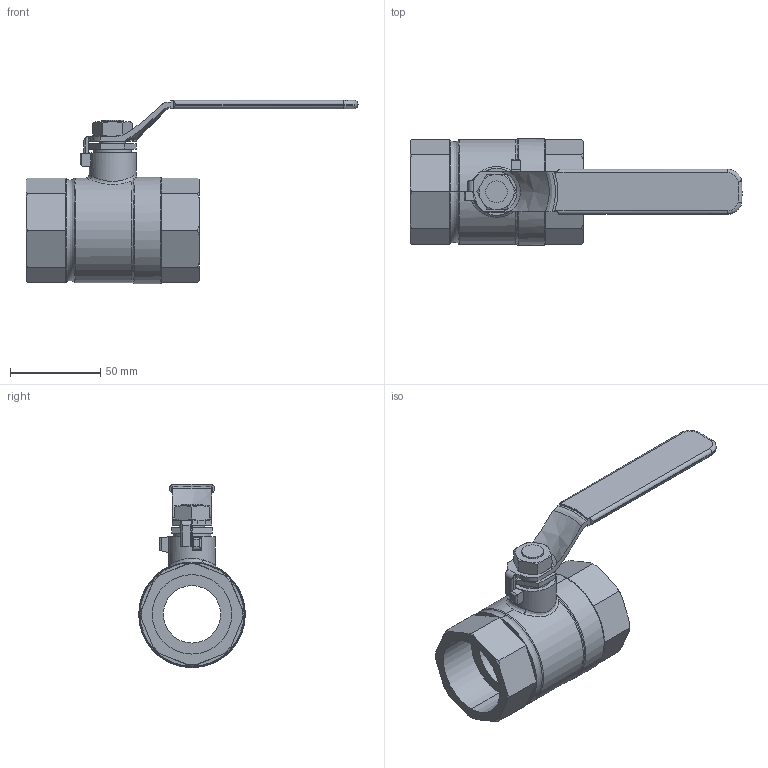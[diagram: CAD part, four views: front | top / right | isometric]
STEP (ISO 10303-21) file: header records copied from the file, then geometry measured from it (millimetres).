
FILE_DESCRIPTION( (''), '2;1');
FILE_NAME ('PC2091.14996.40A_1404.stp','2026-05-28T08:43:56',(''),(''),'spGate 21.9.4 (****-****-****-****)','','');
FILE_SCHEMA (('AUTOMOTIVE_DESIGN'));
Length unit declared in the file: millimetre
Bounding box: 183.99 x 59 x 101.5 mm (x, y, z)
Volume: 163372 mm3; surface area: 43549.3 mm2
Topology: 1 solids, 1 shells, 189 faces, 494 edges, 312 vertices
Faces by surface type: plane 83, bspline 55, cylinder 47, sphere 4
Entity records: 10643 total; most frequent: CARTESIAN_POINT 2668, ORIENTED_EDGE 980, DIRECTION 727, COLOUR_RGB 680, PRESENTATION_STYLE_ASSIGNMENT 680, STYLED_ITEM 680, EDGE_CURVE 490, DRAUGHTING_PRE_DEFINED_CURVE_FONT 490
